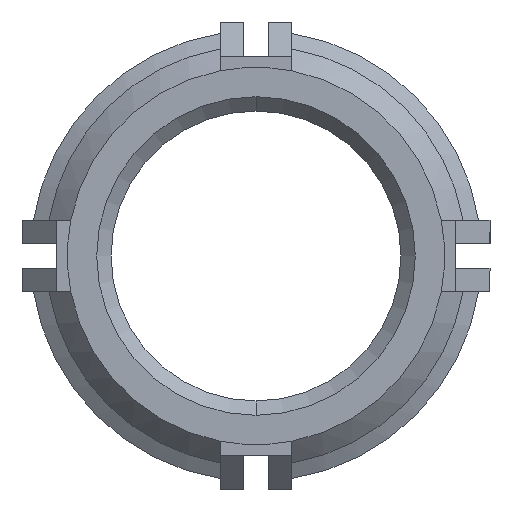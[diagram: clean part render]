
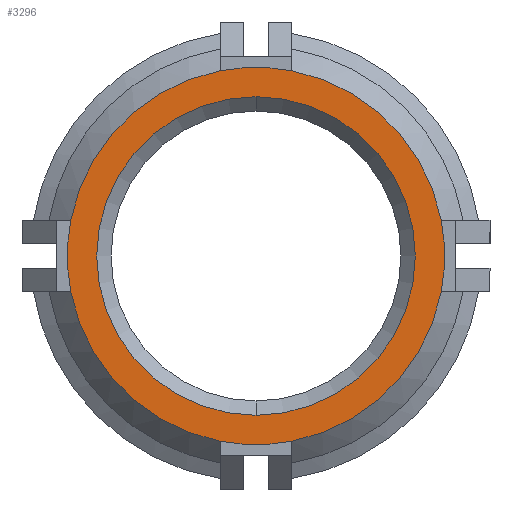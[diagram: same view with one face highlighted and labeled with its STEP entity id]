
A CAD part, front view. The second image highlights one B-rep face of the part: STEP entity #3296.
In plain terms, the highlighted planar face has unit normal (0, -1, 0).
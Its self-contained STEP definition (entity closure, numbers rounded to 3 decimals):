
#5 = VERTEX_POINT ( 'NONE', #3041 ) ;
#46 = VERTEX_POINT ( 'NONE', #3562 ) ;
#49 = ORIENTED_EDGE ( 'NONE', *, *, #59, .T. ) ;
#56 = EDGE_CURVE ( 'NONE', #3845, #5105, #4010, .T. ) ;
#59 = EDGE_CURVE ( 'NONE', #5, #2610, #1383, .T. ) ;
#106 = CIRCLE ( 'NONE', #5860, 7.85 ) ;
#107 = DIRECTION ( 'NONE',  ( 0., -1., 0. ) ) ;
#135 = ORIENTED_EDGE ( 'NONE', *, *, #827, .T. ) ;
#198 = CIRCLE ( 'NONE', #3819, 9.299 ) ;
#210 = DIRECTION ( 'NONE',  ( 0., 1., 0. ) ) ;
#310 = CARTESIAN_POINT ( 'NONE',  ( 0., -20.574, 7.85 ) ) ;
#491 = CIRCLE ( 'NONE', #5761, 9.299 ) ;
#517 = CIRCLE ( 'NONE', #2671, 9.299 ) ;
#555 = CARTESIAN_POINT ( 'NONE',  ( 0., -20.574, 0. ) ) ;
#611 = AXIS2_PLACEMENT_3D ( 'NONE', #5311, #107, #4387 ) ;
#685 = DIRECTION ( 'NONE',  ( 0., 0., 1. ) ) ;
#702 = DIRECTION ( 'NONE',  ( 0., 0., 1. ) ) ;
#813 = CARTESIAN_POINT ( 'NONE',  ( -1.75, -20.574, 9.132 ) ) ;
#827 = EDGE_CURVE ( 'NONE', #2796, #5, #491, .T. ) ;
#1006 = ORIENTED_EDGE ( 'NONE', *, *, #1556, .T. ) ;
#1141 = CARTESIAN_POINT ( 'NONE',  ( 0., -20.574, 0. ) ) ;
#1179 = ORIENTED_EDGE ( 'NONE', *, *, #56, .T. ) ;
#1223 = EDGE_CURVE ( 'NONE', #5105, #3845, #106, .T. ) ;
#1263 = EDGE_CURVE ( 'NONE', #4613, #2796, #198, .T. ) ;
#1383 = CIRCLE ( 'NONE', #4796, 9.299 ) ;
#1472 = EDGE_LOOP ( 'NONE', ( #2726, #5581, #4271, #5335, #4673, #135, #49, #1006 ) ) ;
#1498 = CIRCLE ( 'NONE', #2292, 9.299 ) ;
#1531 = DIRECTION ( 'NONE',  ( 0., 0., -1. ) ) ;
#1556 = EDGE_CURVE ( 'NONE', #2610, #46, #3039, .T. ) ;
#1667 = CARTESIAN_POINT ( 'NONE',  ( 0., -20.574, 0. ) ) ;
#1773 = VERTEX_POINT ( 'NONE', #4204 ) ;
#1902 = DIRECTION ( 'NONE',  ( 0., 0., 1. ) ) ;
#2001 = DIRECTION ( 'NONE',  ( 0., 1., 0. ) ) ;
#2004 = DIRECTION ( 'NONE',  ( 0., 0., 1. ) ) ;
#2044 = DIRECTION ( 'NONE',  ( 0., -1., 0. ) ) ;
#2292 = AXIS2_PLACEMENT_3D ( 'NONE', #5268, #5812, #2004 ) ;
#2367 = AXIS2_PLACEMENT_3D ( 'NONE', #5232, #2485, #4330 ) ;
#2368 = AXIS2_PLACEMENT_3D ( 'NONE', #1141, #3015, #685 ) ;
#2416 = ORIENTED_EDGE ( 'NONE', *, *, #1223, .T. ) ;
#2433 = CARTESIAN_POINT ( 'NONE',  ( 0., -20.574, 0. ) ) ;
#2485 = DIRECTION ( 'NONE',  ( 0., -1., 0. ) ) ;
#2561 = CARTESIAN_POINT ( 'NONE',  ( 0., -20.574, 0. ) ) ;
#2610 = VERTEX_POINT ( 'NONE', #813 ) ;
#2616 = CARTESIAN_POINT ( 'NONE',  ( -1.75, -20.574, -9.132 ) ) ;
#2671 = AXIS2_PLACEMENT_3D ( 'NONE', #3302, #2758, #1902 ) ;
#2726 = ORIENTED_EDGE ( 'NONE', *, *, #3833, .T. ) ;
#2758 = DIRECTION ( 'NONE',  ( 0., -1., 0. ) ) ;
#2782 = AXIS2_PLACEMENT_3D ( 'NONE', #4431, #210, #702 ) ;
#2796 = VERTEX_POINT ( 'NONE', #2815 ) ;
#2815 = CARTESIAN_POINT ( 'NONE',  ( 9.132, -20.574, 1.75 ) ) ;
#2923 = DIRECTION ( 'NONE',  ( 0., 0., 1. ) ) ;
#3015 = DIRECTION ( 'NONE',  ( 0., 1., 0. ) ) ;
#3039 = CIRCLE ( 'NONE', #2367, 9.299 ) ;
#3041 = CARTESIAN_POINT ( 'NONE',  ( 1.75, -20.574, 9.132 ) ) ;
#3250 = CIRCLE ( 'NONE', #611, 9.299 ) ;
#3264 = CIRCLE ( 'NONE', #3937, 9.299 ) ;
#3277 = EDGE_CURVE ( 'NONE', #4611, #4613, #1498, .T. ) ;
#3296 = ADVANCED_FACE ( 'NONE', ( #4398, #3911 ), #5778, .F. ) ;
#3302 = CARTESIAN_POINT ( 'NONE',  ( 0., -20.574, 0. ) ) ;
#3373 = DIRECTION ( 'NONE',  ( 0., -1., 0. ) ) ;
#3562 = CARTESIAN_POINT ( 'NONE',  ( -9.132, -20.574, 1.75 ) ) ;
#3582 = EDGE_CURVE ( 'NONE', #1773, #5036, #517, .T. ) ;
#3669 = EDGE_CURVE ( 'NONE', #5036, #4611, #3250, .T. ) ;
#3819 = AXIS2_PLACEMENT_3D ( 'NONE', #2433, #3373, #1531 ) ;
#3823 = DIRECTION ( 'NONE',  ( 0., 0., 1. ) ) ;
#3833 = EDGE_CURVE ( 'NONE', #46, #1773, #3264, .T. ) ;
#3845 = VERTEX_POINT ( 'NONE', #310 ) ;
#3911 = FACE_OUTER_BOUND ( 'NONE', #1472, .T. ) ;
#3937 = AXIS2_PLACEMENT_3D ( 'NONE', #1667, #4082, #5427 ) ;
#4010 = CIRCLE ( 'NONE', #2368, 7.85 ) ;
#4082 = DIRECTION ( 'NONE',  ( 0., -1., 0. ) ) ;
#4204 = CARTESIAN_POINT ( 'NONE',  ( -9.132, -20.574, -1.75 ) ) ;
#4271 = ORIENTED_EDGE ( 'NONE', *, *, #3669, .T. ) ;
#4330 = DIRECTION ( 'NONE',  ( 0., 0., 1. ) ) ;
#4387 = DIRECTION ( 'NONE',  ( -1., 0., 0. ) ) ;
#4398 = FACE_BOUND ( 'NONE', #4647, .T. ) ;
#4414 = DIRECTION ( 'NONE',  ( 1., 0., 0. ) ) ;
#4431 = CARTESIAN_POINT ( 'NONE',  ( 0., -20.574, 0. ) ) ;
#4611 = VERTEX_POINT ( 'NONE', #5428 ) ;
#4613 = VERTEX_POINT ( 'NONE', #5886 ) ;
#4647 = EDGE_LOOP ( 'NONE', ( #2416, #1179 ) ) ;
#4673 = ORIENTED_EDGE ( 'NONE', *, *, #1263, .T. ) ;
#4796 = AXIS2_PLACEMENT_3D ( 'NONE', #2561, #2044, #4414 ) ;
#5036 = VERTEX_POINT ( 'NONE', #2616 ) ;
#5105 = VERTEX_POINT ( 'NONE', #5809 ) ;
#5232 = CARTESIAN_POINT ( 'NONE',  ( 0., -20.574, 0. ) ) ;
#5268 = CARTESIAN_POINT ( 'NONE',  ( 0., -20.574, 0. ) ) ;
#5271 = DIRECTION ( 'NONE',  ( 0., -1., 0. ) ) ;
#5297 = CARTESIAN_POINT ( 'NONE',  ( 0., -20.574, 0. ) ) ;
#5311 = CARTESIAN_POINT ( 'NONE',  ( 0., -20.574, 0. ) ) ;
#5335 = ORIENTED_EDGE ( 'NONE', *, *, #3277, .T. ) ;
#5427 = DIRECTION ( 'NONE',  ( 0., 0., 1. ) ) ;
#5428 = CARTESIAN_POINT ( 'NONE',  ( 1.75, -20.574, -9.132 ) ) ;
#5581 = ORIENTED_EDGE ( 'NONE', *, *, #3582, .T. ) ;
#5761 = AXIS2_PLACEMENT_3D ( 'NONE', #5297, #5271, #2923 ) ;
#5778 = PLANE ( 'NONE',  #2782 ) ;
#5809 = CARTESIAN_POINT ( 'NONE',  ( 0., -20.574, -7.85 ) ) ;
#5812 = DIRECTION ( 'NONE',  ( 0., -1., 0. ) ) ;
#5860 = AXIS2_PLACEMENT_3D ( 'NONE', #555, #2001, #3823 ) ;
#5886 = CARTESIAN_POINT ( 'NONE',  ( 9.132, -20.574, -1.75 ) ) ;
